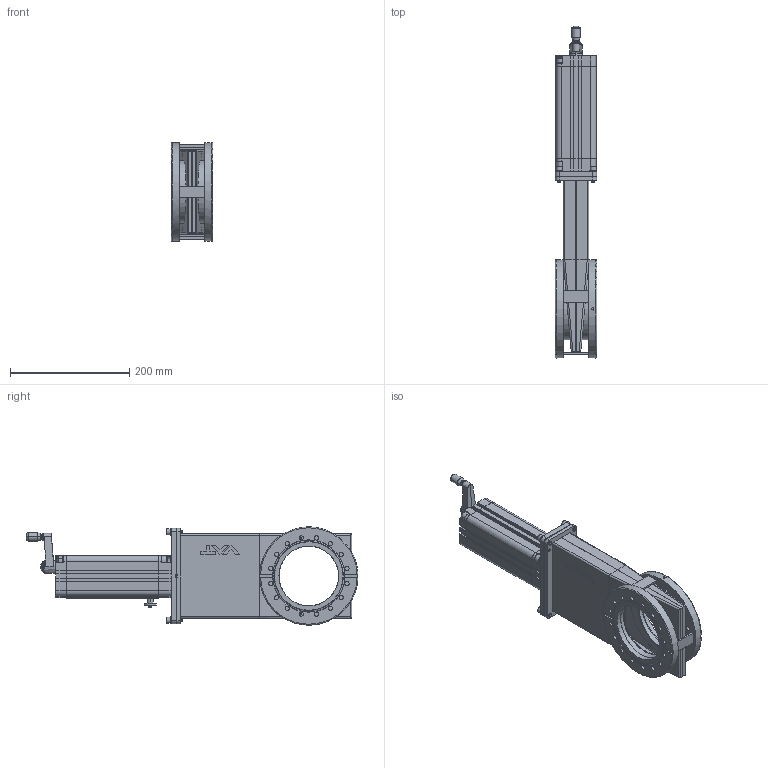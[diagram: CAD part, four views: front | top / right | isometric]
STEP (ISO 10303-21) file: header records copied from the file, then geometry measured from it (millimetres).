
FILE_DESCRIPTION(/* description */ (''),/* implementation_level */ '2;1');
FILE_NAME(/* name */ '1019964315_203.stp',/* time_stamp */ '2010-07-27T08:42:54+02:00',/* author */ (''),/* organization */ (''),/* preprocessor_version */ 'ST-DEVELOPER v11',/* originating_system */ 'SIEMENS UGS NX 6.0',/* authorisation */ '');
FILE_SCHEMA (('CONFIG_CONTROL_DESIGN'));
Length unit declared in the file: millimetre
Products named in the file (25): N-6092-118.1; 251086.3; n-6134-408; 218189; n-6195-408; 309093.5; 251261.12; 260722.6; 260826.1; 309091.5; 251259.6; 307121.7; N-6066-008.1; 260718.3; 260719.2; 250214.4; 251262.4; 332680.2; 301646.1; 259432.1; 260720.3; 259597.1; 259462.4; 251409.4; 309139.11
Assembly tree (38 placements, depth 3):
  309139.11
    259462.4
    259597.1  x4
    260720.3
    259432.1
    301646.1
    332680.2
    251262.4  x3
    250214.4
    251409.4
      251086.3
      N-6092-118.1  x2
    260719.2
    260718.3
    N-6066-008.1
    307121.7
    251259.6  x2
    309091.5
    260826.1
    260722.6
    251261.12  x2
    309093.5
    n-6195-408
    218189  x4
    n-6134-408  x4
Bounding box: 70 x 556.56 x 164.8 mm (x, y, z)
Volume: 1185498.4 mm3; surface area: 532127.6 mm2
Topology: 46 solids, 46 shells, 1495 faces, 3834 edges, 2480 vertices
Faces by surface type: plane 691, cylinder 384, bspline 172, revolution 104, cone 76, extrusion 44, torus 20, sphere 4
Full cylindrical faces by diameter (mm): 1.7 x1, 2.2 x1, 3.17 x1, 4 x2, 4.96 x4, 4.976 x2, 4.985 x1, 5 x8, 5.124 x2, 5.22 x4, 5.3 x1, 5.7 x2, 6 x14, 6.4 x4, 6.5 x10, 7.145 x32, 7.976 x2, 8 x2, 8.8 x1, 10 x4, 10.008 x1, 10.281 x1, 10.321 x1, 10.4 x4, 11 x6, 11.5 x4, 15 x1, 15.2 x1, 16 x1, 16.2 x1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
Entity records: 54702 total; most frequent: CARTESIAN_POINT 23802, ORIENTED_EDGE 5784, DIRECTION 5232, EDGE_CURVE 2892, VERTEX_POINT 1982, AXIS2_PLACEMENT_3D 1776, VECTOR 1618, LINE 1574
